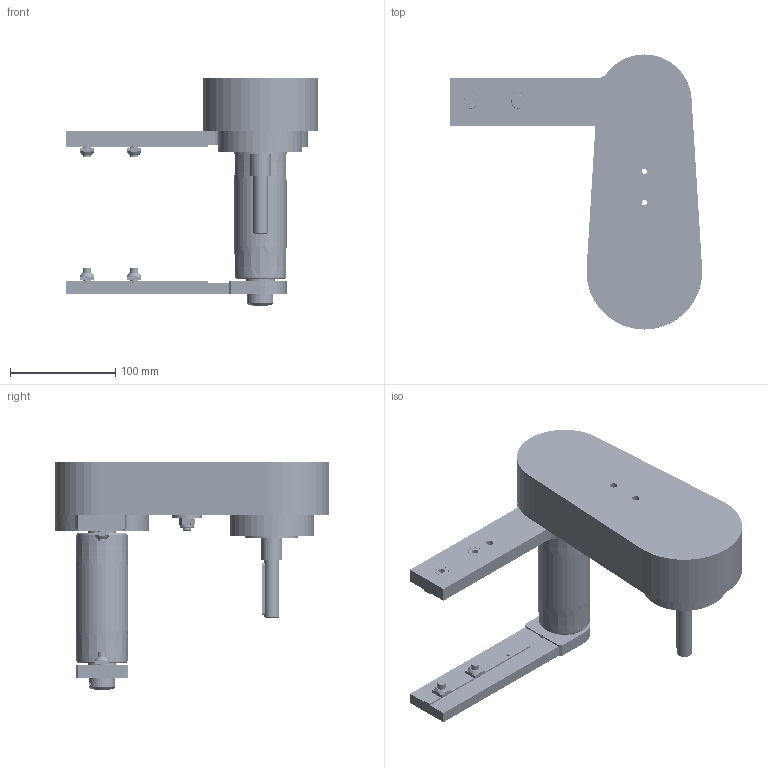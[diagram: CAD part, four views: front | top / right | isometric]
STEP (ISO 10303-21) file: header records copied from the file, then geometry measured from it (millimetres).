
FILE_DESCRIPTION (( 'STEP AP203' ), '1' );
FILE_NAME ('084.050.KTC.30.100.STEP', '2018-06-28T08:34:06', ( 'Localadmin' ), ( 'Microsoft' ), 'SwSTEP 2.0', 'SolidWorks 2016', '' );
FILE_SCHEMA (( 'CONFIG_CONTROL_DESIGN' ));
Length unit declared in the file: millimetre
Products named in the file (26): 084.809.001; 084.802.017_084.802.017; 084.301.000 VITI ALUSIC_084.301.003; 084.809.003; 084.807.001_084.807.001; 084.302.000 DADI ALUSIC 13x13_084.302.004; 084.810.010; 084.807.002_084.807.002; CHIAVETTE_A 5x5x50 UNI 6604-69; 084.810.004; 084.803.014; 084.815.101_Default<A macchina>; 084.050.KTC.30.100; CUSCINETTI A SFERE_608-2RS; 084.809.004; 084.811.004; circlip for shafts normal_din_Circlip DIN 471 - 8 x 0.8; 084.813.006; 084.813.001; Washer ISO 7094 - 8_Washer ISO 7094 - 8; 084.802.021; 084.810.001; ISO 7040-M8-S_ISO 7040-M8-S; 084.803.012; 084.802.034_084.802.034; 084.810.005
Assembly tree (34 placements, depth 3):
  084.050.KTC.30.100
    084.815.101_Default<A macchina>
    084.811.004
    084.813.001
    084.810.001  x2
    084.802.034_084.802.034
    084.802.017_084.802.017
    084.807.001_084.807.001
    084.807.002_084.807.002
    084.803.014  x2
    084.809.004
    084.813.006
    084.802.021
    084.803.012
    084.809.001
    084.809.003
    084.810.005
      084.810.010
      084.810.004
      CUSCINETTI A SFERE_608-2RS  x2
      circlip for shafts normal_din_Circlip DIN 471 - 8 x 0.8
      Washer ISO 7094 - 8_Washer ISO 7094 - 8
      ISO 7040-M8-S_ISO 7040-M8-S
    084.301.000 VITI ALUSIC_084.301.003  x4
    084.302.000 DADI ALUSIC 13x13_084.302.004  x4
    CHIAVETTE_A 5x5x50 UNI 6604-69
Bounding box: 240 x 261.5 x 216 mm (x, y, z)
Volume: 831467.1 mm3; surface area: 436592.6 mm2
Topology: 63 solids, 64 shells, 2943 faces, 6919 edges, 4416 vertices
Faces by surface type: cylinder 1455, plane 732, bspline 468, cone 185, torus 94, sphere 9
Entity records: 83938 total; most frequent: CARTESIAN_POINT 18867, DIRECTION 14154, ORIENTED_EDGE 12236, EDGE_CURVE 6118, AXIS2_PLACEMENT_3D 5980, VERTEX_POINT 3893, CIRCLE 3769, EDGE_LOOP 3225
